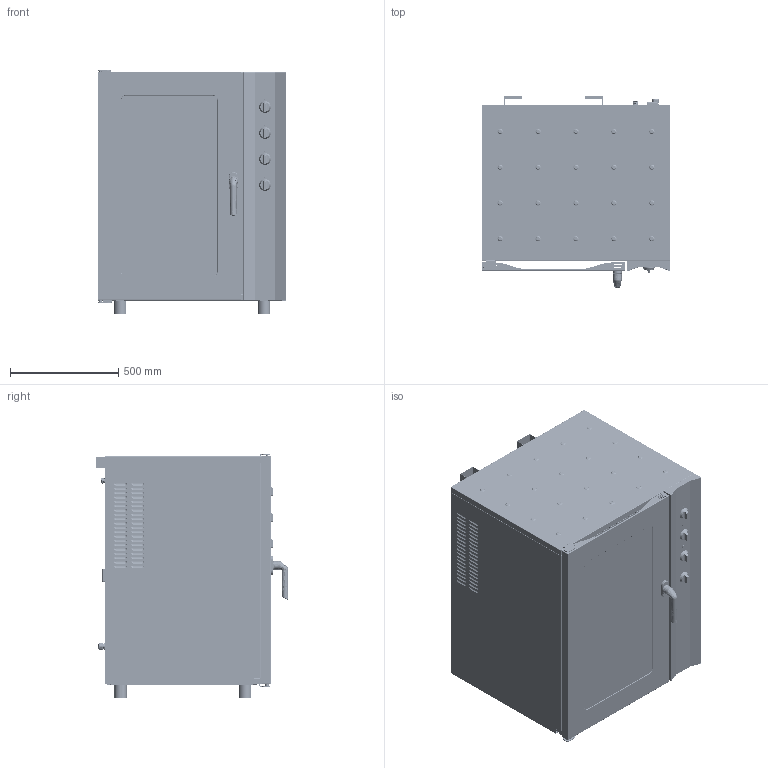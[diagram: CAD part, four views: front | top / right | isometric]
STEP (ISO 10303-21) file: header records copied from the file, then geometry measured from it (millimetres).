
FILE_DESCRIPTION(/* description */ (''),/* implementation_level */ '2;1');
FILE_NAME(/* name */ 'ALFA341XM.stp',/* time_stamp */ '2014-05-06T16:06:52+02:00',/* author */ (''),/* organization */ (''),/* preprocessor_version */ 'ST-DEVELOPER v11',/* originating_system */ 'SIEMENS PLM Software NX 7.5',/* authorisation */ '');
FILE_SCHEMA (('AUTOMOTIVE_DESIGN { 1 0 10303 214 1 1 1 1 }'));
Products named in the file (1): FAVEB5745bbo
Bounding box: 872.27 x 888.86 x 1126.9 mm (x, y, z)
Volume: 8561918.5 mm3; surface area: 12249449.8 mm2
Topology: 33 solids, 35 shells, 4633 faces, 12061 edges, 7408 vertices
Faces by surface type: plane 1806, cylinder 1693, torus 407, bspline 382, sphere 225, cone 92, extrusion 28
Full cylindrical faces by diameter (mm): 2.15 x2, 3 x22, 3.2 x35, 3.25 x10, 3.3 x1, 3.4 x2, 3.5 x7, 4 x11, 4.351 x3, 4.5 x57, 5 x10, 5.2 x4, 5.3 x3, 5.5 x2, 6 x4, 6.5 x1, 6.985 x4, 8 x2, 9 x10, 9.838 x4, 10 x8, 10.1 x1, 10.5 x1, 11 x1, 12 x1, 13 x3, 13.2 x1, 14 x2, 15 x1, 16 x2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
Entity records: 154821 total; most frequent: CARTESIAN_POINT 45449, ORIENTED_EDGE 22262, DIRECTION 22251, EDGE_CURVE 11155, AXIS2_PLACEMENT_3D 8411, VERTEX_POINT 7094, EDGE_LOOP 6073, VECTOR 5429
